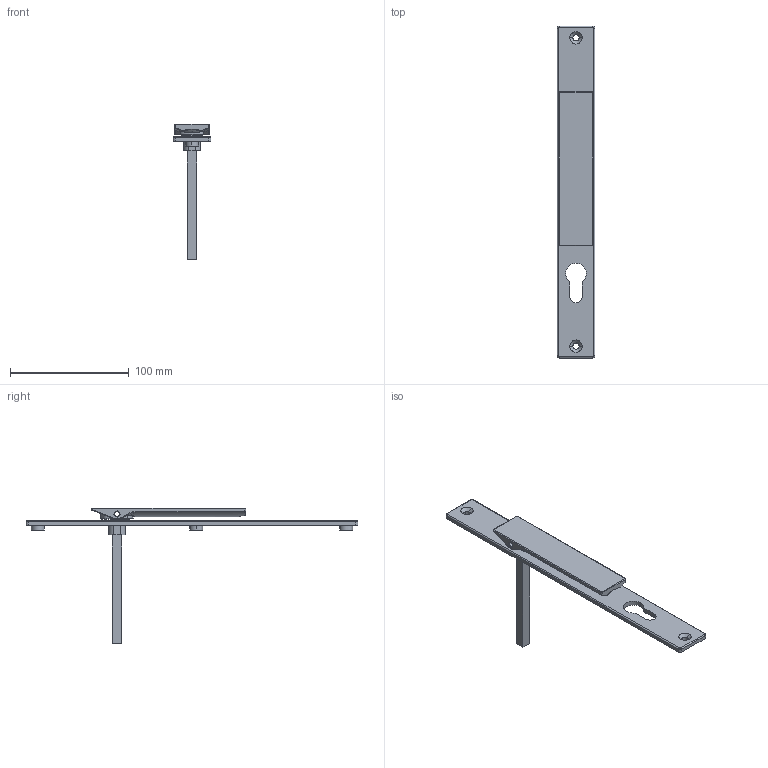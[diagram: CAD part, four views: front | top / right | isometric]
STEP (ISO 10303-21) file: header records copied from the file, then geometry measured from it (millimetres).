
FILE_DESCRIPTION (( 'STEP AP203' ), '1' );
FILE_NAME ('TPL-SS-002-100-C 27Apr2026.STEP', '2026-04-26T22:46:54', ( '' ), ( '' ), 'SwSTEP 2.0', 'SolidWorks 2023', '' );
FILE_SCHEMA (( 'CONFIG_CONTROL_DESIGN' ));
Length unit declared in the file: millimetre
Products named in the file (6): Copy of LKC-584 Pivot body zinc - simplified^TPGen2 handle keyed internal SS - simplified; Copy of LKC-585 Rotator body zinc - simplified^TPGen2 handle keyed internal SS - simplified; TPL-SS-002-100-C 27Apr2026; Copy of LKC-586 Spindle square 8mm with M4 hole - simplified^TPGen2 handle keyed internal SS - simplified_100mm; Copy of Escutcheon plate keyed internal 280mm - simplified^TPGen2 handle keyed internal SS - simplified; Copy of LKC-506 Swing handle SS - simplified^TPGen2 handle keyed internal SS - simplified
Assembly tree (5 placements, depth 2):
  TPL-SS-002-100-C 27Apr2026
    Copy of Escutcheon plate keyed internal 280mm - simplified^TPGen2 handle keyed internal SS - simplified
    Copy of LKC-586 Spindle square 8mm with M4 hole - simplified^TPGen2 handle keyed internal SS - simplified_100mm
    Copy of LKC-584 Pivot body zinc - simplified^TPGen2 handle keyed internal SS - simplified
    Copy of LKC-585 Rotator body zinc - simplified^TPGen2 handle keyed internal SS - simplified
    Copy of LKC-506 Swing handle SS - simplified^TPGen2 handle keyed internal SS - simplified
Bounding box: 32 x 280 x 114.55 mm (x, y, z)
Volume: 63544.9 mm3; surface area: 36185.9 mm2
Topology: 5 solids, 5 shells, 298 faces, 712 edges, 430 vertices
Faces by surface type: cylinder 113, plane 81, bspline 44, torus 36, cone 22, sphere 2
Entity records: 10250 total; most frequent: CARTESIAN_POINT 2934, ORIENTED_EDGE 1420, DIRECTION 1411, EDGE_CURVE 710, AXIS2_PLACEMENT_3D 559, VERTEX_POINT 430, EDGE_LOOP 332, FACE_OUTER_BOUND 298
